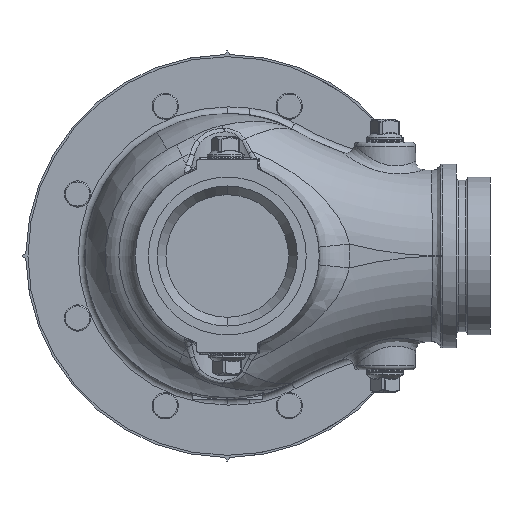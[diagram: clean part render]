
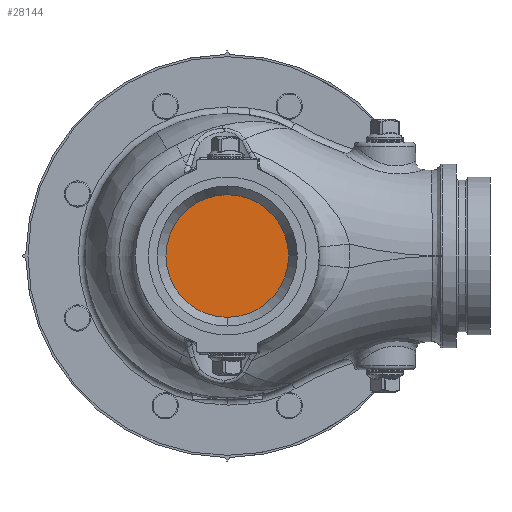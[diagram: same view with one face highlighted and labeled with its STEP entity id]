
A CAD part, front view. The second image highlights one B-rep face of the part: STEP entity #28144.
In plain terms, the highlighted planar face has unit normal (0, -1, 0).
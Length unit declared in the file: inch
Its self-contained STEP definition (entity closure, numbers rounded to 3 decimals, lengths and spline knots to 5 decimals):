
#68 = VERTEX_POINT ( 'NONE', #23749 ) ;
#2142 = DIRECTION ( 'NONE',  ( 0., 0., 1. ) ) ;
#3212 = EDGE_CURVE ( 'NONE', #17448, #68, #29054, .T. ) ;
#4297 = CARTESIAN_POINT ( 'NONE',  ( 0., -3.92, 0. ) ) ;
#4764 = DIRECTION ( 'NONE',  ( 0., 1., 0. ) ) ;
#5115 = CARTESIAN_POINT ( 'NONE',  ( -1.75, -3.92, 0. ) ) ;
#5141 = CARTESIAN_POINT ( 'NONE',  ( 0., -3.92, 0. ) ) ;
#12827 = AXIS2_PLACEMENT_3D ( 'NONE', #4297, #4764, #14366 ) ;
#14366 = DIRECTION ( 'NONE',  ( 0., 0., 1. ) ) ;
#14397 = FACE_OUTER_BOUND ( 'NONE', #25643, .T. ) ;
#14749 = DIRECTION ( 'NONE',  ( 0., 1., 0. ) ) ;
#17448 = VERTEX_POINT ( 'NONE', #25130 ) ;
#17920 = EDGE_CURVE ( 'NONE', #68, #17448, #26369, .T. ) ;
#18036 = AXIS2_PLACEMENT_3D ( 'NONE', #5141, #14749, #2142 ) ;
#18825 = PLANE ( 'NONE',  #29086 ) ;
#19136 = DIRECTION ( 'NONE',  ( 0., 0., 1. ) ) ;
#21475 = DIRECTION ( 'NONE',  ( 0., 1., 0. ) ) ;
#23749 = CARTESIAN_POINT ( 'NONE',  ( 0., -3.92, 1.75 ) ) ;
#25130 = CARTESIAN_POINT ( 'NONE',  ( 0., -3.92, -1.75 ) ) ;
#25643 = EDGE_LOOP ( 'NONE', ( #28351, #29235 ) ) ;
#26369 = CIRCLE ( 'NONE', #12827, 1.75 ) ;
#28144 = ADVANCED_FACE ( 'NONE', ( #14397 ), #18825, .F. ) ;
#28351 = ORIENTED_EDGE ( 'NONE', *, *, #17920, .F. ) ;
#29054 = CIRCLE ( 'NONE', #18036, 1.75 ) ;
#29086 = AXIS2_PLACEMENT_3D ( 'NONE', #5115, #21475, #19136 ) ;
#29235 = ORIENTED_EDGE ( 'NONE', *, *, #3212, .F. ) ;
